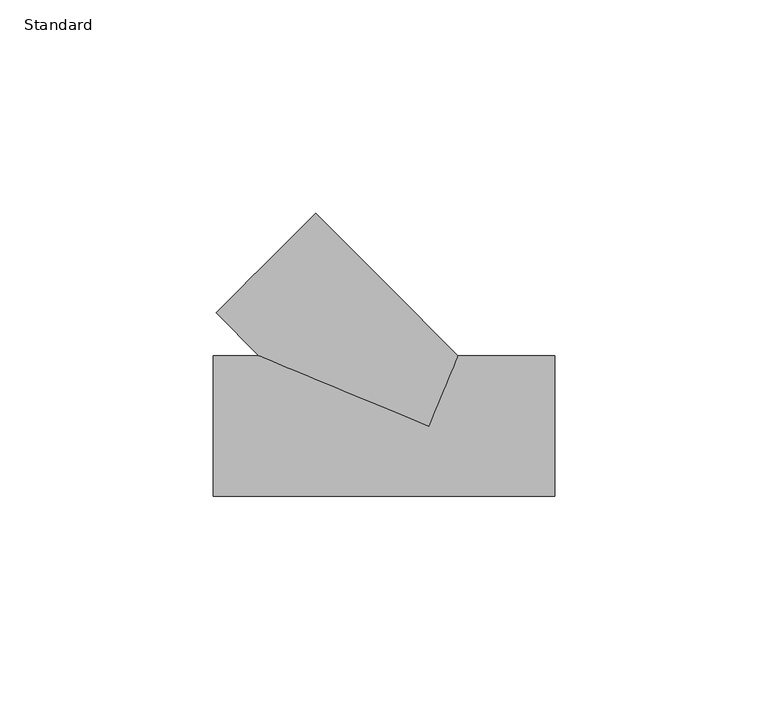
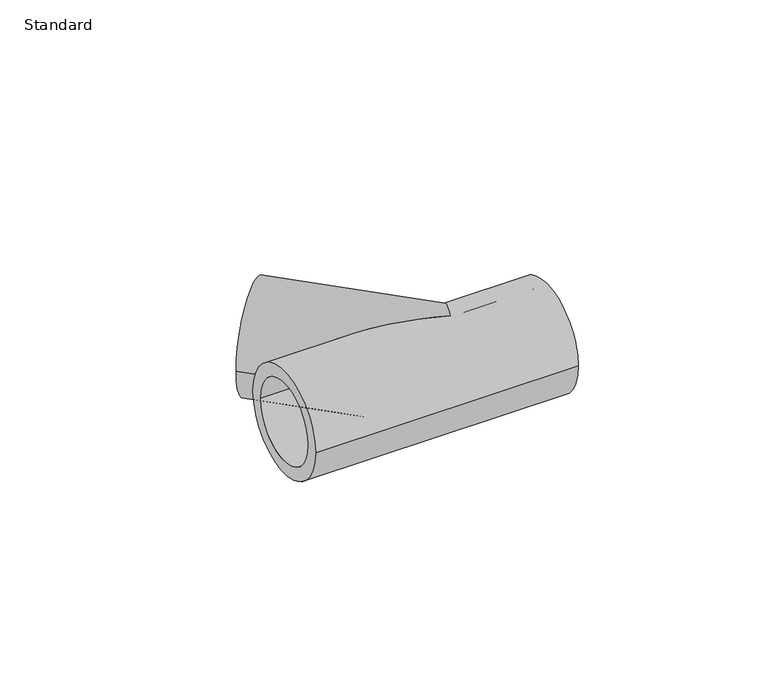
"""IFC4 building model written with IfcOpenShell, lengths in millimetres: pipe fitting geometry, Durapipe_PipeFitting_PVC_Tee45deg : Standard."""

import ifcopenshell
import ifcopenshell.guid

model = None  # the IFC model being written
_history = None  # IfcOwnerHistory: only IFC2X3 demands one
_inside = {}  # id of a spatial element -> (the spatial element, [elements in it])
_under = {}  # id of a project, library or spatial element -> (it, [spatial elements below it])
_declared = {}  # id of a project -> (the project, [libraries it declares])
_typed = {}  # id of a type object -> (the type object, [elements of that type])
_made_of = {}  # id of a material, layer set ... -> (it, [elements and type objects made of it])


def new_model(schema):
    """Start an empty IFC model of exactly this schema.

    Asked for "IFC4X3", IfcOpenShell would pick the latest addendum, in which some entities
    have other attributes; the version numbers below select the first issue.
    IFC2X3 requires an IfcOwnerHistory on every rooted entity: one is made here for all.
    """
    global model, _history
    if schema == "IFC4X3":
        model = ifcopenshell.file(schema_version=(4, 3, 0, 0))
    else:
        model = ifcopenshell.file(schema=schema)
    _inside.clear()
    _under.clear()
    _declared.clear()
    _typed.clear()
    _made_of.clear()
    _history = None
    if model.schema == "IFC2X3":
        org = make("IfcOrganization", Name="unknown")
        user = make(
            "IfcPersonAndOrganization",
            ThePerson=make("IfcPerson", FamilyName="unknown"),
            TheOrganization=org,
        )
        app = make(
            "IfcApplication",
            ApplicationDeveloper=org,
            Version="unknown",
            ApplicationFullName="unknown",
            ApplicationIdentifier="unknown",
        )
        _history = make(
            "IfcOwnerHistory",
            OwningUser=user,
            OwningApplication=app,
            ChangeAction="ADDED",
            CreationDate=0,
        )
    return model


def make(cls, **values):
    """One entity of the class cls with the attributes given. An attribute that is None is left unset."""
    return model.create_entity(
        cls, **{name: value for name, value in values.items() if value is not None}
    )


def rooted(cls, **values):
    """An entity with a GlobalId (a new one), such as an element, a storey or a relation."""
    return make(cls, GlobalId=ifcopenshell.guid.new(), OwnerHistory=_history, **values)


def si_unit(unit_type, name, prefix=None):
    """IfcSIUnit, for example si_unit("LENGTHUNIT", "METRE", prefix="MILLI")."""
    return make("IfcSIUnit", UnitType=unit_type, Prefix=prefix, Name=name)


def assignment(units):
    """IfcUnitAssignment: the units of a project."""
    return None if units is None else make("IfcUnitAssignment", Units=units)


def point(xyz):
    """IfcCartesianPoint."""
    return None if xyz is None else make("IfcCartesianPoint", Coordinates=xyz)


def direction(xyz):
    """IfcDirection."""
    return None if xyz is None else make("IfcDirection", DirectionRatios=xyz)


def frame(location, z_axis=None, x_axis=None):
    """IfcAxis2Placement3D, a coordinate frame: its origin and axes. An axis left out is left unset."""
    return make(
        "IfcAxis2Placement3D",
        Location=point(location),
        Axis=direction(z_axis),
        RefDirection=direction(x_axis),
    )


def origin():
    """The frame at (0, 0, 0) with its axes left unset."""
    return frame((0.0, 0.0, 0.0))


def place(relative_to, where):
    """IfcLocalPlacement: puts the frame where relative to a parent placement (None: the world)."""
    return make(
        "IfcLocalPlacement", PlacementRelTo=relative_to, RelativePlacement=where
    )


def context(
    kind, dimensions, precision=None, world=None, true_north=None, identifier=None
):
    """IfcGeometricRepresentationContext, for example the 3D "Model" context."""
    return make(
        "IfcGeometricRepresentationContext",
        ContextIdentifier=identifier,
        ContextType=kind,
        CoordinateSpaceDimension=dimensions,
        Precision=precision,
        WorldCoordinateSystem=world,
        TrueNorth=true_north,
    )


def project(units=None, contexts=None):
    """IfcProject with its units and contexts."""
    return rooted(
        "IfcProject",
        Name="project",
        RepresentationContexts=contexts,
        UnitsInContext=assignment(units),
    )


def spatial(cls, under=None, at=None, **own):
    """A site, building, storey or space (cls), placed at a placement, below another one or the project."""
    s = rooted(cls, ObjectPlacement=at, **own)
    if under is not None:
        _under.setdefault(under.id(), (under, []))[1].append(s)
    return s


def polyline(points):
    """IfcPolyline through the points."""
    return make("IfcPolyline", Points=[point(p) for p in points])


def circle_curve(where, radius):
    """IfcCircle in the frame where."""
    return make("IfcCircle", Position=where, Radius=radius)


def ellipse_curve(where, semi_axis1, semi_axis2):
    """IfcEllipse in the frame where."""
    return make(
        "IfcEllipse", Position=where, SemiAxis1=semi_axis1, SemiAxis2=semi_axis2
    )


def shape(context_of_items, identifier, shape_type, items):
    """IfcShapeRepresentation: the items that make up one representation, for example the "Body"."""
    return make(
        "IfcShapeRepresentation",
        ContextOfItems=context_of_items,
        RepresentationIdentifier=identifier,
        RepresentationType=shape_type,
        Items=items,
    )


def source(mapping_origin, context_of_items, identifier, shape_type, items):
    """IfcRepresentationMap: a shape defined once, which mapped items show again and again."""
    return make(
        "IfcRepresentationMap",
        MappingOrigin=mapping_origin,
        MappedRepresentation=shape(context_of_items, identifier, shape_type, items),
    )


def transform(
    local_origin,
    x_axis=None,
    y_axis=None,
    z_axis=None,
    scale=None,
    scale2=None,
    scale3=None,
    uniform=True,
):
    """IfcCartesianTransformationOperator3D, or its non-uniform kind. x_axis, y_axis, z_axis: its Axis1, 2, 3."""
    if uniform:
        return make(
            "IfcCartesianTransformationOperator3D",
            Axis1=direction(x_axis),
            Axis2=direction(y_axis),
            LocalOrigin=point(local_origin),
            Scale=scale,
            Axis3=direction(z_axis),
        )
    return make(
        "IfcCartesianTransformationOperator3DnonUniform",
        Axis1=direction(x_axis),
        Axis2=direction(y_axis),
        LocalOrigin=point(local_origin),
        Scale=scale,
        Axis3=direction(z_axis),
        Scale2=scale2,
        Scale3=scale3,
    )


def mapped(mapping_source, mapping_target):
    """IfcMappedItem: shows the shape of a source again, moved by a transform."""
    return make(
        "IfcMappedItem", MappingSource=mapping_source, MappingTarget=mapping_target
    )


def made_of(thing, what):
    """Note that an element or type object is made of a material, layer set ...; save() writes the relation."""
    if what is not None:
        _made_of.setdefault(what.id(), (what, []))[1].append(thing)
    return thing


def element(
    cls,
    number,
    at=None,
    inside=None,
    cuts=None,
    type_object=None,
    material=None,
    context=None,
    identifier="Body",
    shape_type=None,
    held_by="IfcProductDefinitionShape",
    body=None,
    shapes=None,
    **own,
):
    """One element of the class cls, such as IfcWall. Its Tag is "e" and its number.

    at: its placement. inside: the storey or other place that contains it. cuts: it is an
    opening in that element (IfcRelVoidsElement). A single representation is given by context,
    identifier, shape_type and body (its items); several are given by shapes. held_by: the class
    of the entity that holds the representations. save() writes the other relations.
    """
    e = rooted(cls, Tag="e%d" % number, ObjectPlacement=at, **own)
    if body is not None:
        shapes = [shape(context, identifier, shape_type, body)]
    if shapes is not None:
        e.Representation = make(held_by, Representations=shapes)
    if inside is not None:
        _inside.setdefault(inside.id(), (inside, []))[1].append(e)
    if cuts is not None:
        rooted(
            "IfcRelVoidsElement", RelatingBuildingElement=cuts, RelatedOpeningElement=e
        )
    if type_object is not None:
        _typed.setdefault(type_object.id(), (type_object, []))[1].append(e)
    return made_of(e, material)


def aggregate(whole, parts):
    """IfcRelAggregates: a whole, such as a stair, and the parts it consists of."""
    return rooted("IfcRelAggregates", RelatingObject=whole, RelatedObjects=parts)


def save(model, path):
    """Write the relations noted so far, then the file.

    IfcRelAggregates (storeys below a building ...), IfcRelContainedInSpatialStructure (elements
    in a storey), IfcRelDefinesByType, IfcRelAssociatesMaterial and IfcRelDeclares: one each for
    every whole, place, type object, material and project.
    """
    for whole, parts in _under.values():
        aggregate(whole, parts)
    for where, things in _inside.values():
        rooted(
            "IfcRelContainedInSpatialStructure",
            RelatedElements=things,
            RelatingStructure=where,
        )
    for kind, things in _typed.values():
        rooted("IfcRelDefinesByType", RelatedObjects=things, RelatingType=kind)
    for what, things in _made_of.values():
        rooted("IfcRelAssociatesMaterial", RelatedObjects=things, RelatingMaterial=what)
    for by, libraries in _declared.values():
        rooted("IfcRelDeclares", RelatingContext=by, RelatedDefinitions=libraries)
    model.write(path)


def plane_surface(at):
    """IfcPlane: the flat surface through the origin of the frame at, square to its z axis."""
    return make("IfcPlane", Position=at)


def cylinder_surface(at, radius):
    """IfcCylindricalSurface: all points at the distance radius from the z axis of the frame at."""
    return make("IfcCylindricalSurface", Position=at, Radius=radius)


def revolved_surface(curve, axis_point, axis_direction):
    """IfcSurfaceOfRevolution: the curve turned about the line through axis_point along axis_direction."""
    return make(
        "IfcSurfaceOfRevolution",
        SweptCurve=make("IfcArbitraryOpenProfileDef", ProfileType="CURVE", Curve=curve),
        AxisPosition=make("IfcAxis1Placement", Location=point(axis_point), Axis=direction(axis_direction)),
    )


def advanced_brep(points, edges, surfaces, faces):
    """IfcAdvancedBrep: a solid bounded by faces that lie on surfaces and meet in shared edges.

    An edge is (start, end): straight between two places in points (the first is 0);
    or (start, end, curve); or (start, end, curve, False) where it runs against its curve.
    A face is (place in surfaces, loops), or (place, loops, False) where it looks against
    its surface's normal. A loop lists edges by number (the first is 1), with a minus sign
    where the edge is run from its end to its start. The first loop is the outer one.
    """
    corners = [point(p) for p in points]
    vertices = [make("IfcVertexPoint", VertexGeometry=c) for c in corners]
    made = []
    for start, end, *more in edges:
        made.append(
            make(
                "IfcEdgeCurve",
                EdgeStart=vertices[start],
                EdgeEnd=vertices[end],
                EdgeGeometry=more[0] if more else make("IfcPolyline", Points=[corners[start], corners[end]]),
                SameSense=more[1] if len(more) > 1 else True,
            )
        )
    hull = []
    for where, loops, *sense in faces:
        bounds = []
        for j, loop in enumerate(loops):
            ring = [make("IfcOrientedEdge", EdgeElement=made[abs(k) - 1], Orientation=k > 0) for k in loop]
            bounds.append(
                make(
                    "IfcFaceOuterBound" if j == 0 else "IfcFaceBound",
                    Bound=make("IfcEdgeLoop", EdgeList=ring),
                    Orientation=True,
                )
            )
        hull.append(make("IfcAdvancedFace", Bounds=bounds, FaceSurface=surfaces[where], SameSense=sense[0] if sense else True))
    return make("IfcAdvancedBrep", Outer=make("IfcClosedShell", CfsFaces=hull))


def standard_619cacc8(model_context):
    return source(origin(), model_context, "Body", "AdvancedBrep", [
        advanced_brep(
        [(-49.8510281, 26.5165043, 0.0), (-26.5165043, 49.8510281, 0.0), (-47.0226009, 29.3449314, 0.0), (-29.3449314, 47.0226009, 0.0), (-39.8345238, 16.5, 0.0), (0.0, 0.0, 16.5), (6.8345238, 16.5, 0.0), (0.0, 0.0, -16.5), (-50.5, -16.5, 0.0), (-50.5, 16.5, 0.0), (-50.5, -12.5, 0.0), (-50.5, 12.5, 0.0), (29.5, -16.5, 0.0), (29.5, 16.5, 0.0), (29.5, 12.5, 0.0), (29.5, -12.5, 0.0), (-24.7487373, 24.7487373, 0.0), (-15.9099026, 33.5875721, 0.0), (-33.5875721, 15.9099026, 0.0), (-28.0, -12.5, 0.0), (-28.0, 0.0, 0.0), (-28.0, 12.5, 0.0), (7.0, -12.5, 0.0), (7.0, 12.5, 0.0), (7.0, 0.0, 0.0)],
        [
            (0, 1, circle_curve(frame((-38.1837662, 38.1837662, 0.0), z_axis=(-0.7071067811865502, 0.7071067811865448, 0.0), x_axis=(0.7071067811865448, 0.7071067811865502, 0.0)), 16.5)),
            (1, 0, circle_curve(frame((-38.1837662, 38.1837662, 0.0), z_axis=(-0.7071067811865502, 0.7071067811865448, 0.0), x_axis=(0.7071067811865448, 0.7071067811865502, 0.0)), 16.5)),
            (2, 3, circle_curve(frame((-38.1837662, 38.1837662, 0.0), z_axis=(0.7071067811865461, -0.7071067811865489, 0.0), x_axis=(-0.7071067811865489, -0.7071067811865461, 0.0)), 12.5)),
            (3, 2, circle_curve(frame((-38.1837662, 38.1837662, 0.0), z_axis=(0.7071067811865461, -0.7071067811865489, 0.0), x_axis=(-0.7071067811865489, -0.7071067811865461, 0.0)), 12.5)),
            (0, 4),
            (4, 5, ellipse_curve(frame((0.0, 0.0, 0.0), z_axis=(0.382683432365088, 0.9238795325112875, 0.0), x_axis=(-0.9238795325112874, 0.382683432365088, 0.0)), 43.1165778, 16.5)),
            (5, 6, ellipse_curve(frame((0.0, 0.0, 0.0), z_axis=(-0.9238795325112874, 0.382683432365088, 0.0), x_axis=(0.3826834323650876, 0.9238795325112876, 0.0)), 17.8594713, 16.5)),
            (6, 1),
            (6, 7, ellipse_curve(frame((0.0, 0.0, 0.0), z_axis=(-0.9238795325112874, 0.382683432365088, 0.0), x_axis=(0.3826834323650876, 0.9238795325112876, 0.0)), 17.8594713, 16.5)),
            (7, 4, ellipse_curve(frame((0.0, 0.0, 0.0), z_axis=(0.382683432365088, 0.9238795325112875, 0.0), x_axis=(-0.9238795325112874, 0.382683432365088, 0.0)), 43.1165778, 16.5)),
            (8, 9, circle_curve(frame((-50.5, 0.0, 0.0), z_axis=(-1.0, 0.0, 0.0), x_axis=(0.0, 1.0, 0.0)), 16.5)),
            (9, 8, circle_curve(frame((-50.5, 0.0, 0.0), z_axis=(-1.0, 0.0, 0.0), x_axis=(0.0, 1.0, 0.0)), 16.5)),
            (10, 11, circle_curve(frame((-50.5, 0.0, 0.0), z_axis=(1.0, 0.0, 0.0), x_axis=(0.0, 1.0, 0.0)), 12.5)),
            (11, 10, circle_curve(frame((-50.5, 0.0, 0.0), z_axis=(1.0, 0.0, 0.0), x_axis=(0.0, 1.0, 0.0)), 12.5)),
            (12, 13, circle_curve(frame((29.5, 0.0, 0.0), z_axis=(1.0, 0.0, 0.0), x_axis=(0.0, 1.0, 0.0)), 16.5)),
            (13, 12, circle_curve(frame((29.5, 0.0, 0.0), z_axis=(1.0, 0.0, 0.0), x_axis=(0.0, 1.0, 0.0)), 16.5)),
            (14, 15, circle_curve(frame((29.5, 0.0, 0.0), z_axis=(-1.0, 0.0, 0.0), x_axis=(0.0, 1.0, 0.0)), 12.5)),
            (15, 14, circle_curve(frame((29.5, 0.0, 0.0), z_axis=(-1.0, 0.0, 0.0), x_axis=(0.0, 1.0, 0.0)), 12.5)),
            (8, 12),
            (13, 6),
            (4, 9),
            (16, 17),
            (17, 18, circle_curve(frame((-24.7487373, 24.7487373, 0.0), z_axis=(-0.7071067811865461, 0.7071067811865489, 0.0), x_axis=(-0.7071067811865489, -0.7071067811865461, 0.0)), 12.5)),
            (18, 16),
            (18, 17, circle_curve(frame((-24.7487373, 24.7487373, 0.0), z_axis=(-0.7071067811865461, 0.7071067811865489, 0.0), x_axis=(-0.7071067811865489, -0.7071067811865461, 0.0)), 12.5)),
            (17, 3),
            (2, 18),
            (19, 20),
            (20, 21),
            (21, 19, circle_curve(frame((-28.0, 0.0, 0.0), z_axis=(-1.0, 0.0, 0.0), x_axis=(0.0, 1.0, 0.0)), 12.5)),
            (19, 21, circle_curve(frame((-28.0, 0.0, 0.0), z_axis=(-1.0, 0.0, 0.0), x_axis=(0.0, 1.0, 0.0)), 12.5)),
            (21, 11),
            (10, 19),
            (22, 15),
            (14, 23),
            (23, 22, circle_curve(frame((7.0, 0.0, 0.0), z_axis=(-1.0, 0.0, 0.0), x_axis=(0.0, 1.0, 0.0)), 12.5)),
            (22, 23, circle_curve(frame((7.0, 0.0, 0.0), z_axis=(-1.0, 0.0, 0.0), x_axis=(0.0, 1.0, 0.0)), 12.5)),
            (23, 24),
            (24, 22),
        ],
        [
            plane_surface(frame((-38.1837662, 38.1837662, 0.0), z_axis=(-0.7071067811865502, 0.7071067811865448, 0.0), x_axis=(0.0, 0.0, 1.0))),
            cylinder_surface(frame((-38.1837662, 38.1837662, 0.0), z_axis=(-0.7071067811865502, 0.7071067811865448, 0.0), x_axis=(0.7071067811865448, 0.7071067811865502, 0.0)), 16.5),
            plane_surface(frame((-50.5, 0.0, 0.0), z_axis=(-1.0, 0.0, 0.0), x_axis=(0.0, 0.0, 1.0))),
            plane_surface(frame((29.5, 0.0, 0.0), z_axis=(1.0, 0.0, 0.0), x_axis=(0.0, 0.0, 1.0))),
            cylinder_surface(frame((-50.5, 0.0, 0.0), z_axis=(-1.0, 0.0, 0.0), x_axis=(0.0, 1.0, 0.0)), 16.5),
            plane_surface(frame((-24.7487373, 24.7487373, 0.0), z_axis=(-0.7071067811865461, 0.7071067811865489, 0.0), x_axis=(-0.7071067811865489, -0.7071067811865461, 0.0))),
            revolved_surface(polyline([(-33.58757206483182, 15.909902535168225, 0.0), (-47.02260096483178, 29.344931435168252, 0.0)]), (0.0, 0.0, 0.0), (0.7071067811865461, -0.7071067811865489, 0.0)),
            plane_surface(frame((-28.0, 0.0, 0.0), z_axis=(-1.0, 0.0, 0.0), x_axis=(0.0, 1.0, 0.0))),
            revolved_surface(polyline([(-50.5, 12.5, 0.0), (-28.0, 12.5, 0.0)]), (2005.5, 0.0, 0.0), (-1.0, 0.0, 0.0)),
            revolved_surface(polyline([(7.0, 12.5, 0.0), (29.5, 12.5, 0.0)]), (1974.5, 0.0, 0.0), (-1.0, 0.0, 0.0)),
            plane_surface(frame((7.0, 0.0, 0.0), z_axis=(1.0, 0.0, 0.0), x_axis=(0.0, 1.0, 0.0))),
        ],
        [
            (0, [[1, 2], [3, 4]]),
            (1, [[-1, 5, 6, 7, 8]]),
            (1, [[-2, -8, 9, 10, -5]]),
            (2, [[11, 12], [13, 14]]),
            (3, [[15, 16], [17, 18]]),
            (4, [[-11, 19, -16, 20, -7, -6, 21]]),
            (4, [[-12, -21, -10, -9, -20, -15, -19]]),
            (5, [[22, 23, 24]]),
            (5, [[-22, -24, 25]]),
            (6, [[-23, 26, -3, 27]]),
            (6, [[-25, -27, -4, -26]]),
            (7, [[28, 29, 30]]),
            (7, [[-28, 31, -29]]),
            (8, [[-30, 32, -13, 33]]),
            (8, [[-31, -33, -14, -32]]),
            (9, [[34, -17, 35, 36]]),
            (9, [[-34, 37, -35, -18]]),
            (10, [[-36, 38, 39]]),
            (10, [[-37, -39, -38]]),
        ],
    ),
    ])


if __name__ == "__main__":
    model = new_model("IFC4")
    model_context = context("Model", 3, world=origin())
    ifc_project = project(units=[si_unit("LENGTHUNIT", "METRE", prefix="MILLI")], contexts=[model_context])
    site = spatial("IfcSite", under=ifc_project)
    building = spatial("IfcBuilding", under=site)
    placement = place(None, origin())
    standard_shape = standard_619cacc8(model_context)
    element("IfcPipeFitting", 1, ObjectType="Durapipe_PipeFitting_PVC_Tee45deg : Standard", at=placement, inside=building, context=model_context, shape_type="MappedRepresentation", body=[
        mapped(standard_shape, transform((0.0, 0.0, 0.0), x_axis=(1.0, 0.0, 0.0), y_axis=(0.0, 1.0, 0.0), z_axis=(0.0, 0.0, 1.0))),
    ])
    save(model, "model.ifc")
